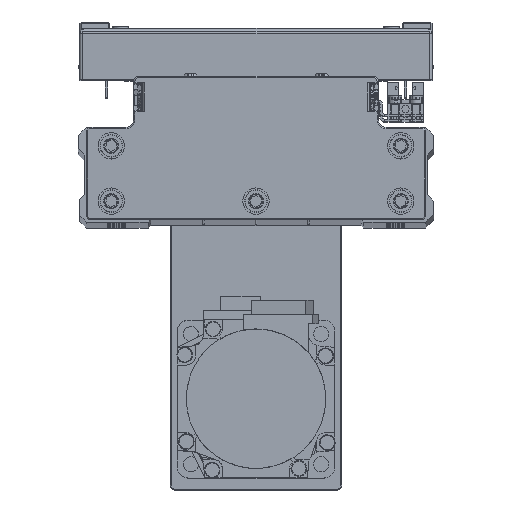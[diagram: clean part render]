
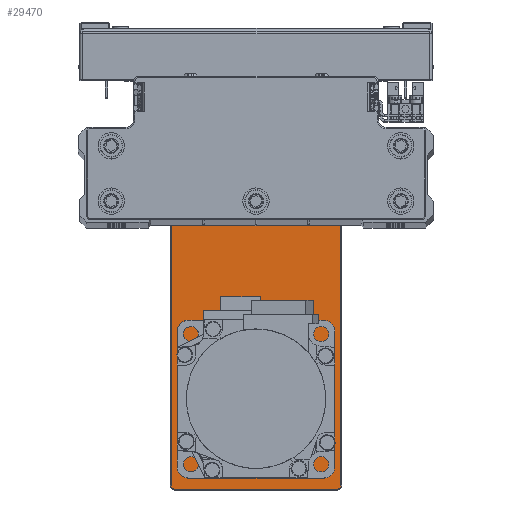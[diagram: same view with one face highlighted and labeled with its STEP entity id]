
A CAD part, top view. The second image highlights one B-rep face of the part: STEP entity #29470.
In plain terms, the highlighted planar face has unit normal (0, 0, 1) as drawn and (0, 1, 0) by its records, which use the part's own axes.
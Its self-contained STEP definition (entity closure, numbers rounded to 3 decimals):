
#303 = ORIENTED_EDGE ( 'NONE', *, *, #33832, .T. ) ;
#572 = AXIS2_PLACEMENT_3D ( 'NONE', #15602, #29438, #43268 ) ;
#676 = CARTESIAN_POINT ( 'NONE',  ( 75.992, 6., -8.551 ) ) ;
#723 = CARTESIAN_POINT ( 'NONE',  ( -83.5, 6., -32.2 ) ) ;
#819 = VERTEX_POINT ( 'NONE', #18153 ) ;
#1017 = CARTESIAN_POINT ( 'NONE',  ( 52.5, 6., -10.3 ) ) ;
#1592 = CARTESIAN_POINT ( 'NONE',  ( 61.051, 6., 23.492 ) ) ;
#2381 = VERTEX_POINT ( 'NONE', #25594 ) ;
#2443 = FACE_BOUND ( 'NONE', #33391, .T. ) ;
#2556 = CARTESIAN_POINT ( 'NONE',  ( 61.051, 6., 23.492 ) ) ;
#2611 = EDGE_CURVE ( 'NONE', #29100, #819, #9921, .T. ) ;
#2717 = EDGE_CURVE ( 'NONE', #4815, #39127, #31345, .T. ) ;
#2825 = ORIENTED_EDGE ( 'NONE', *, *, #6623, .T. ) ;
#3108 = VERTEX_POINT ( 'NONE', #723 ) ;
#3217 = DIRECTION ( 'NONE',  ( 0., 0., 1. ) ) ;
#3404 = CARTESIAN_POINT ( 'NONE',  ( 83.5, 6., 32.2 ) ) ;
#3665 = ORIENTED_EDGE ( 'NONE', *, *, #34888, .F. ) ;
#4815 = VERTEX_POINT ( 'NONE', #22423 ) ;
#5002 = AXIS2_PLACEMENT_3D ( 'NONE', #14951, #28783, #42611 ) ;
#5471 = CARTESIAN_POINT ( 'NONE',  ( 84.7, 6., -31. ) ) ;
#5828 = AXIS2_PLACEMENT_3D ( 'NONE', #40622, #9556, #23383 ) ;
#6466 = CARTESIAN_POINT ( 'NONE',  ( -50.5, 6., 15. ) ) ;
#6482 = CARTESIAN_POINT ( 'NONE',  ( 83.5, 6., 31. ) ) ;
#6516 = EDGE_CURVE ( 'NONE', #21468, #3108, #16231, .T. ) ;
#6623 = EDGE_CURVE ( 'NONE', #15694, #2381, #37004, .T. ) ;
#6634 = CARTESIAN_POINT ( 'NONE',  ( 75.992, 6., -7.026 ) ) ;
#7133 = DIRECTION ( 'NONE',  ( 1., 0., 0. ) ) ;
#7433 = DIRECTION ( 'NONE',  ( 0., 0., 1. ) ) ;
#7576 = ORIENTED_EDGE ( 'NONE', *, *, #30528, .T. ) ;
#7846 = CARTESIAN_POINT ( 'NONE',  ( -83.5, 6., 32.2 ) ) ;
#7979 = ORIENTED_EDGE ( 'NONE', *, *, #11188, .F. ) ;
#9157 = VECTOR ( 'NONE', #12758, 1000. ) ;
#9436 = AXIS2_PLACEMENT_3D ( 'NONE', #1592, #15413, #29247 ) ;
#9556 = DIRECTION ( 'NONE',  ( 0., 1., 0. ) ) ;
#9921 = LINE ( 'NONE', #23749, #43645 ) ;
#10773 = ORIENTED_EDGE ( 'NONE', *, *, #6516, .T. ) ;
#10955 = AXIS2_PLACEMENT_3D ( 'NONE', #20443, #34278, #3217 ) ;
#11117 = AXIS2_PLACEMENT_3D ( 'NONE', #676, #14521, #28355 ) ;
#11188 = EDGE_CURVE ( 'NONE', #29307, #21945, #29000, .T. ) ;
#11790 = AXIS2_PLACEMENT_3D ( 'NONE', #24655, #38498, #7433 ) ;
#11910 = DIRECTION ( 'NONE',  ( 0., 0., -1. ) ) ;
#12758 = DIRECTION ( 'NONE',  ( 0., 0., -1. ) ) ;
#12863 = CARTESIAN_POINT ( 'NONE',  ( 0., 6., 0. ) ) ;
#12967 = AXIS2_PLACEMENT_3D ( 'NONE', #29158, #42987, #11910 ) ;
#14521 = DIRECTION ( 'NONE',  ( 0., 1., 0. ) ) ;
#14570 = CARTESIAN_POINT ( 'NONE',  ( 52.5, 6., 0. ) ) ;
#14658 = CARTESIAN_POINT ( 'NONE',  ( -50.5, 6., -15. ) ) ;
#14951 = CARTESIAN_POINT ( 'NONE',  ( -83.5, 6., -31. ) ) ;
#15231 = AXIS2_PLACEMENT_3D ( 'NONE', #17021, #30869, #44709 ) ;
#15413 = DIRECTION ( 'NONE',  ( 0., 1., 0. ) ) ;
#15456 = EDGE_LOOP ( 'NONE', ( #37769, #10773, #29572, #35005, #39895, #7576, #2825, #29501 ) ) ;
#15602 = CARTESIAN_POINT ( 'NONE',  ( 52.5, 6., 0. ) ) ;
#15694 = VERTEX_POINT ( 'NONE', #3404 ) ;
#16231 = LINE ( 'NONE', #30069, #27594 ) ;
#16257 = FACE_OUTER_BOUND ( 'NONE', #15456, .T. ) ;
#16378 = DIRECTION ( 'NONE',  ( 0., 1., 0. ) ) ;
#16452 = VERTEX_POINT ( 'NONE', #6466 ) ;
#16772 = CARTESIAN_POINT ( 'NONE',  ( -84.7, 6., -31. ) ) ;
#17021 = CARTESIAN_POINT ( 'NONE',  ( -50.5, 6., 0. ) ) ;
#18153 = CARTESIAN_POINT ( 'NONE',  ( -84.7, 6., 31. ) ) ;
#18273 = CARTESIAN_POINT ( 'NONE',  ( 83.5, 6., -32.2 ) ) ;
#19436 = EDGE_LOOP ( 'NONE', ( #20703, #30544 ) ) ;
#19665 = FACE_BOUND ( 'NONE', #40107, .T. ) ;
#20106 = CIRCLE ( 'NONE', #572, 10.3 ) ;
#20273 = EDGE_CURVE ( 'NONE', #819, #31378, #32524, .T. ) ;
#20308 = DIRECTION ( 'NONE',  ( 0., 1., 0. ) ) ;
#20443 = CARTESIAN_POINT ( 'NONE',  ( -50.5, 6., 0. ) ) ;
#20703 = ORIENTED_EDGE ( 'NONE', *, *, #27522, .F. ) ;
#21468 = VERTEX_POINT ( 'NONE', #18273 ) ;
#21945 = VERTEX_POINT ( 'NONE', #32287 ) ;
#22423 = CARTESIAN_POINT ( 'NONE',  ( 75.992, 6., -10.076 ) ) ;
#23219 = AXIS2_PLACEMENT_3D ( 'NONE', #14570, #28404, #42232 ) ;
#23383 = DIRECTION ( 'NONE',  ( 0., 0., -1. ) ) ;
#23388 = AXIS2_PLACEMENT_3D ( 'NONE', #2556, #16378, #30216 ) ;
#23585 = VERTEX_POINT ( 'NONE', #1017 ) ;
#23727 = EDGE_LOOP ( 'NONE', ( #29626, #30682 ) ) ;
#23749 = CARTESIAN_POINT ( 'NONE',  ( -84.7, 6., 0. ) ) ;
#24368 = LINE ( 'NONE', #38202, #41932 ) ;
#24555 = CIRCLE ( 'NONE', #5002, 1.2 ) ;
#24655 = CARTESIAN_POINT ( 'NONE',  ( 75.992, 6., -8.551 ) ) ;
#25384 = CIRCLE ( 'NONE', #5828, 1.2 ) ;
#25591 = CARTESIAN_POINT ( 'NONE',  ( 61.051, 6., 25.017 ) ) ;
#25594 = CARTESIAN_POINT ( 'NONE',  ( 84.7, 6., 31. ) ) ;
#26393 = EDGE_CURVE ( 'NONE', #38555, #16452, #34770, .T. ) ;
#26703 = DIRECTION ( 'NONE',  ( 0., -1., 0. ) ) ;
#27522 = EDGE_CURVE ( 'NONE', #16452, #38555, #30509, .T. ) ;
#27594 = VECTOR ( 'NONE', #43915, 1000. ) ;
#28355 = DIRECTION ( 'NONE',  ( 0., 0., 1. ) ) ;
#28404 = DIRECTION ( 'NONE',  ( 0., -1., 0. ) ) ;
#28783 = DIRECTION ( 'NONE',  ( 0., 1., 0. ) ) ;
#29000 = CIRCLE ( 'NONE', #9436, 1.525 ) ;
#29100 = VERTEX_POINT ( 'NONE', #16772 ) ;
#29158 = CARTESIAN_POINT ( 'NONE',  ( -83.5, 6., 31. ) ) ;
#29247 = DIRECTION ( 'NONE',  ( 0., 0., 1. ) ) ;
#29307 = VERTEX_POINT ( 'NONE', #25591 ) ;
#29438 = DIRECTION ( 'NONE',  ( 0., -1., 0. ) ) ;
#29470 = ADVANCED_FACE ( 'NONE', ( #19665, #33509, #2443, #16257, #30101 ), #43948, .F. ) ;
#29501 = ORIENTED_EDGE ( 'NONE', *, *, #40346, .T. ) ;
#29572 = ORIENTED_EDGE ( 'NONE', *, *, #43924, .T. ) ;
#29626 = ORIENTED_EDGE ( 'NONE', *, *, #35504, .F. ) ;
#29989 = LINE ( 'NONE', #43827, #9157 ) ;
#30069 = CARTESIAN_POINT ( 'NONE',  ( 0., 6., -32.2 ) ) ;
#30101 = FACE_BOUND ( 'NONE', #19436, .T. ) ;
#30216 = DIRECTION ( 'NONE',  ( 0., 0., 1. ) ) ;
#30262 = AXIS2_PLACEMENT_3D ( 'NONE', #12863, #26703, #40544 ) ;
#30509 = CIRCLE ( 'NONE', #10955, 15. ) ;
#30528 = EDGE_CURVE ( 'NONE', #31378, #15694, #24368, .T. ) ;
#30544 = ORIENTED_EDGE ( 'NONE', *, *, #26393, .F. ) ;
#30671 = CIRCLE ( 'NONE', #11117, 1.525 ) ;
#30682 = ORIENTED_EDGE ( 'NONE', *, *, #2717, .F. ) ;
#30869 = DIRECTION ( 'NONE',  ( 0., 1., 0. ) ) ;
#31345 = CIRCLE ( 'NONE', #11790, 1.525 ) ;
#31378 = VERTEX_POINT ( 'NONE', #7846 ) ;
#32287 = CARTESIAN_POINT ( 'NONE',  ( 61.051, 6., 21.967 ) ) ;
#32524 = CIRCLE ( 'NONE', #12967, 1.2 ) ;
#32897 = CARTESIAN_POINT ( 'NONE',  ( 52.5, 6., 10.3 ) ) ;
#33391 = EDGE_LOOP ( 'NONE', ( #303, #36346 ) ) ;
#33509 = FACE_BOUND ( 'NONE', #23727, .T. ) ;
#33748 = EDGE_CURVE ( 'NONE', #44846, #21468, #25384, .T. ) ;
#33832 = EDGE_CURVE ( 'NONE', #40655, #23585, #42771, .T. ) ;
#34153 = DIRECTION ( 'NONE',  ( 0., 0., -1. ) ) ;
#34278 = DIRECTION ( 'NONE',  ( 0., 1., 0. ) ) ;
#34770 = CIRCLE ( 'NONE', #15231, 15. ) ;
#34888 = EDGE_CURVE ( 'NONE', #21945, #29307, #42948, .T. ) ;
#35005 = ORIENTED_EDGE ( 'NONE', *, *, #2611, .T. ) ;
#35504 = EDGE_CURVE ( 'NONE', #39127, #4815, #30671, .T. ) ;
#36346 = ORIENTED_EDGE ( 'NONE', *, *, #41036, .T. ) ;
#37004 = CIRCLE ( 'NONE', #42808, 1.2 ) ;
#37584 = DIRECTION ( 'NONE',  ( 0., 0., 1. ) ) ;
#37769 = ORIENTED_EDGE ( 'NONE', *, *, #33748, .T. ) ;
#38202 = CARTESIAN_POINT ( 'NONE',  ( 0., 6., 32.2 ) ) ;
#38498 = DIRECTION ( 'NONE',  ( 0., 1., 0. ) ) ;
#38555 = VERTEX_POINT ( 'NONE', #14658 ) ;
#39127 = VERTEX_POINT ( 'NONE', #6634 ) ;
#39895 = ORIENTED_EDGE ( 'NONE', *, *, #20273, .T. ) ;
#40107 = EDGE_LOOP ( 'NONE', ( #7979, #3665 ) ) ;
#40346 = EDGE_CURVE ( 'NONE', #2381, #44846, #29989, .T. ) ;
#40544 = DIRECTION ( 'NONE',  ( 0., 0., -1. ) ) ;
#40622 = CARTESIAN_POINT ( 'NONE',  ( 83.5, 6., -31. ) ) ;
#40655 = VERTEX_POINT ( 'NONE', #32897 ) ;
#41036 = EDGE_CURVE ( 'NONE', #23585, #40655, #20106, .T. ) ;
#41932 = VECTOR ( 'NONE', #7133, 1000. ) ;
#42232 = DIRECTION ( 'NONE',  ( 0., 0., -1. ) ) ;
#42611 = DIRECTION ( 'NONE',  ( 0., 0., -1. ) ) ;
#42771 = CIRCLE ( 'NONE', #23219, 10.3 ) ;
#42808 = AXIS2_PLACEMENT_3D ( 'NONE', #6482, #20308, #34153 ) ;
#42948 = CIRCLE ( 'NONE', #23388, 1.525 ) ;
#42987 = DIRECTION ( 'NONE',  ( 0., 1., 0. ) ) ;
#43268 = DIRECTION ( 'NONE',  ( 0., 0., -1. ) ) ;
#43645 = VECTOR ( 'NONE', #37584, 1000. ) ;
#43827 = CARTESIAN_POINT ( 'NONE',  ( 84.7, 6., 0. ) ) ;
#43915 = DIRECTION ( 'NONE',  ( -1., 0., 0. ) ) ;
#43924 = EDGE_CURVE ( 'NONE', #3108, #29100, #24555, .T. ) ;
#43948 = PLANE ( 'NONE',  #30262 ) ;
#44709 = DIRECTION ( 'NONE',  ( 0., 0., 1. ) ) ;
#44846 = VERTEX_POINT ( 'NONE', #5471 ) ;
